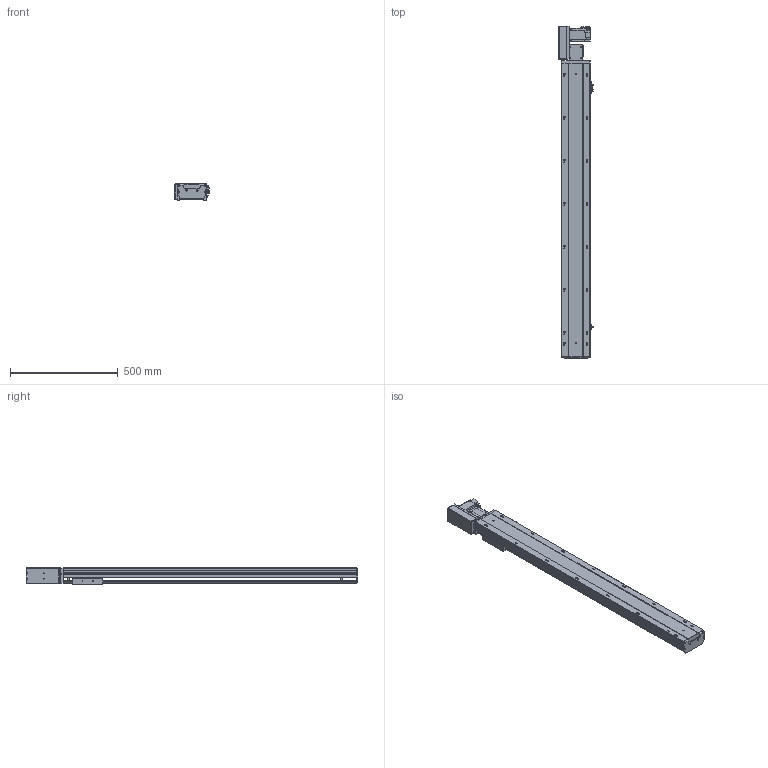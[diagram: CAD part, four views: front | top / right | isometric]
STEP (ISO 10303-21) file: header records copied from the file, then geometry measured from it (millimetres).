
FILE_DESCRIPTION (( 'STEP AP203' ), '1' );
FILE_NAME ('110.STEP', '2022-07-20T11:15:36', ( '' ), ( '' ), 'SwSTEP 2.0', 'SolidWorks 2016', '' );
FILE_SCHEMA (( 'CONFIG_CONTROL_DESIGN' ));
Length unit declared in the file: millimetre
Products named in the file (10): BTB14-L-02; BTB14-L-菁釱_XD; BTB14-L-M40; 110; BTB14-L-23; BTB14-L-01; BTB14-L-HZ; BTB14-L-04; BTB14-L-06; BTB14-L-24
Assembly tree (12 placements, depth 2):
  110
    BTB14-L-菁釱_XD
    BTB14-L-01
    BTB14-L-02
    BTB14-L-04  x3
    BTB14-L-06
    BTB14-L-23  x2
    BTB14-L-24
    BTB14-L-HZ
    BTB14-L-M40
Bounding box: 160.7 x 1543.5 x 78 mm (x, y, z)
Volume: 6679240.7 mm3; surface area: 1410593.9 mm2
Topology: 22 solids, 22 shells, 1630 faces, 4309 edges, 2746 vertices
Faces by surface type: plane 937, cylinder 472, cone 132, bspline 77, torus 12
Entity records: 43266 total; most frequent: CARTESIAN_POINT 10657, ORIENTED_EDGE 6524, DIRECTION 6488, EDGE_CURVE 3262, LINE 2218, VECTOR 2218, AXIS2_PLACEMENT_3D 2135, VERTEX_POINT 2124
